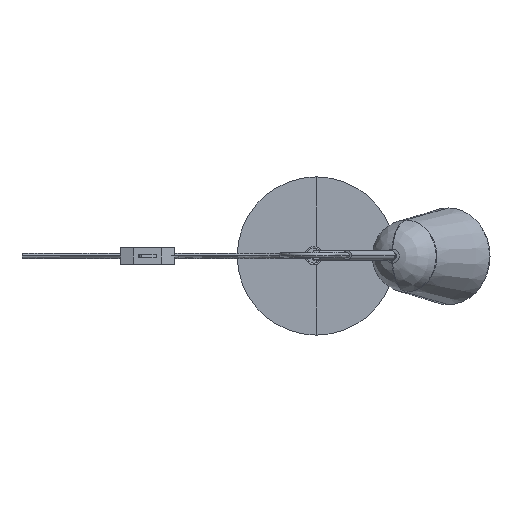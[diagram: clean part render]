
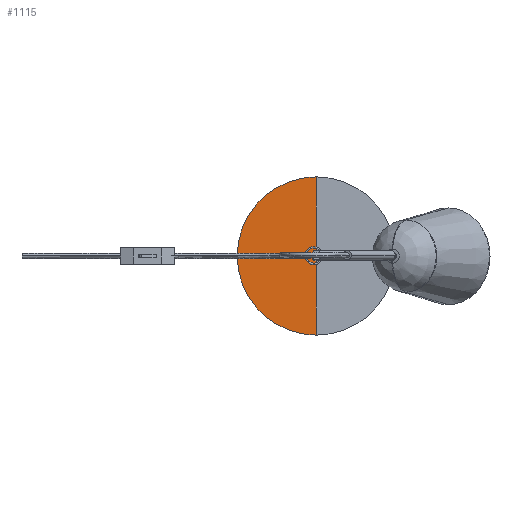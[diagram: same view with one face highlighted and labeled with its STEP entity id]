
A CAD part, top view. The second image highlights one B-rep face of the part: STEP entity #1115.
In plain terms, the highlighted planar face has unit normal (0, 0, 1).
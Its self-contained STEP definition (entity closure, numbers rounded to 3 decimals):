
#109=CIRCLE('',#1231,5.5);
#111=CIRCLE('',#1234,5.5);
#120=CIRCLE('',#1250,90.);
#202=LINE('',#7956,#270);
#203=LINE('',#7957,#271);
#270=VECTOR('',#1574,304.8);
#271=VECTOR('',#1575,304.8);
#307=PLANE('',#1252);
#381=FACE_OUTER_BOUND('',#456,.T.);
#456=EDGE_LOOP('',(#1027,#1028,#1029,#1030,#1031));
#563=VERTEX_POINT('',#7916);
#564=VERTEX_POINT('',#7918);
#565=VERTEX_POINT('',#7923);
#572=VERTEX_POINT('',#7948);
#573=VERTEX_POINT('',#7949);
#706=EDGE_CURVE('',#564,#563,#109,.T.);
#709=EDGE_CURVE('',#565,#564,#111,.T.);
#724=EDGE_CURVE('',#573,#572,#120,.T.);
#725=EDGE_CURVE('',#563,#573,#202,.T.);
#726=EDGE_CURVE('',#572,#565,#203,.T.);
#1027=ORIENTED_EDGE('',*,*,#724,.T.);
#1028=ORIENTED_EDGE('',*,*,#726,.T.);
#1029=ORIENTED_EDGE('',*,*,#709,.T.);
#1030=ORIENTED_EDGE('',*,*,#706,.T.);
#1031=ORIENTED_EDGE('',*,*,#725,.T.);
#1115=ADVANCED_FACE('',(#381),#307,.F.);
#1231=AXIS2_PLACEMENT_3D('',#7919,#1525,#1526);
#1234=AXIS2_PLACEMENT_3D('',#7924,#1532,#1533);
#1250=AXIS2_PLACEMENT_3D('',#7954,#1570,#1571);
#1252=AXIS2_PLACEMENT_3D('',#7958,#1576,#1577);
#1525=DIRECTION('center_axis',(0.,0.,-1.));
#1526=DIRECTION('ref_axis',(1.,0.,0.));
#1532=DIRECTION('center_axis',(0.,0.,-1.));
#1533=DIRECTION('ref_axis',(1.,0.,0.));
#1570=DIRECTION('center_axis',(0.,0.,1.));
#1571=DIRECTION('ref_axis',(0.,-1.,0.));
#1574=DIRECTION('',(0.,1.,0.));
#1575=DIRECTION('',(0.,1.,0.));
#1576=DIRECTION('center_axis',(0.,0.,-1.));
#1577=DIRECTION('ref_axis',(0.,-1.,0.));
#7916=CARTESIAN_POINT('',(0.,5.5,6.));
#7918=CARTESIAN_POINT('',(-5.5,0.,6.));
#7919=CARTESIAN_POINT('Origin',(0.,0.,
6.));
#7923=CARTESIAN_POINT('',(0.,-5.5,6.));
#7924=CARTESIAN_POINT('Origin',(0.,0.,
6.));
#7948=CARTESIAN_POINT('',(0.,-90.,6.));
#7949=CARTESIAN_POINT('',(0.,90.,6.));
#7954=CARTESIAN_POINT('Origin',(0.,0.,
6.));
#7956=CARTESIAN_POINT('',(0.,5.5,6.));
#7957=CARTESIAN_POINT('',(0.,-90.,6.));
#7958=CARTESIAN_POINT('Origin',(0.,0.,6.));
